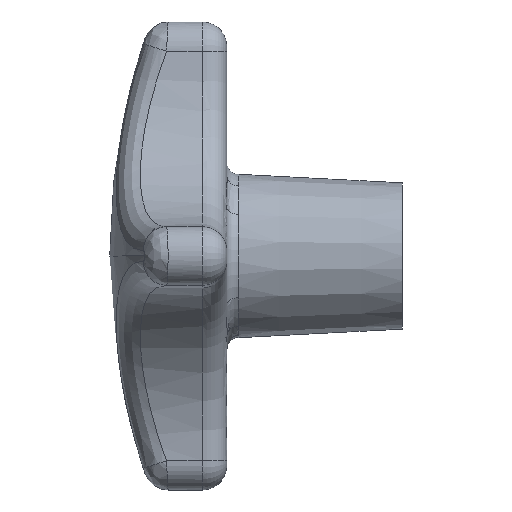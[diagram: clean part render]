
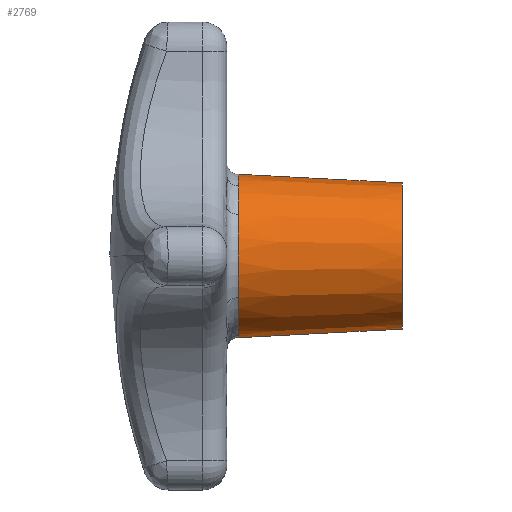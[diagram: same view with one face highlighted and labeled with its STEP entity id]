
A CAD part, left-side view. The second image highlights one B-rep face of the part: STEP entity #2769.
In plain terms, the highlighted conical face has half-angle 3 degrees and reference radius 12.5 mm.
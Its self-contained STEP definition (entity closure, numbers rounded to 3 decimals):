
#10 = CARTESIAN_POINT ( 'NONE',  ( -9.463, -1.933, 10.294 ) ) ;
#22 = ORIENTED_EDGE ( 'NONE', *, *, #1227, .T. ) ;
#44 = CARTESIAN_POINT ( 'NONE',  ( -9.482, -1.933, -10.277 ) ) ;
#55 = ORIENTED_EDGE ( 'NONE', *, *, #1430, .T. ) ;
#88 = CARTESIAN_POINT ( 'NONE',  ( 0., -30., 0. ) ) ;
#106 = AXIS2_PLACEMENT_3D ( 'NONE', #1453, #2883, #1691 ) ;
#218 = CARTESIAN_POINT ( 'NONE',  ( -8.127, -1.962, 11.377 ) ) ;
#231 = CARTESIAN_POINT ( 'NONE',  ( 0., -1.974, 13.969 ) ) ;
#241 = CARTESIAN_POINT ( 'NONE',  ( -10.277, -1.933, 9.482 ) ) ;
#273 = AXIS2_PLACEMENT_3D ( 'NONE', #88, #539, #776 ) ;
#380 = ORIENTED_EDGE ( 'NONE', *, *, #1632, .T. ) ;
#424 = LINE ( 'NONE', #439, #2817 ) ;
#428 = CARTESIAN_POINT ( 'NONE',  ( 0., -30., 12.5 ) ) ;
#434 = CARTESIAN_POINT ( 'NONE',  ( 0., -1.974, 0. ) ) ;
#439 = CARTESIAN_POINT ( 'NONE',  ( 0., -30., 12.5 ) ) ;
#468 = CARTESIAN_POINT ( 'NONE',  ( -11.375, -1.961, 8.13 ) ) ;
#504 = CARTESIAN_POINT ( 'NONE',  ( -7.152, -1.974, -11.999 ) ) ;
#523 = ORIENTED_EDGE ( 'NONE', *, *, #1512, .T. ) ;
#528 = DIRECTION ( 'NONE',  ( 0., 0.999, -0.052 ) ) ;
#539 = DIRECTION ( 'NONE',  ( 0., 1., 0. ) ) ;
#653 = VERTEX_POINT ( 'NONE', #504 ) ;
#676 = DIRECTION ( 'NONE',  ( 0., -1., 0. ) ) ;
#693 = CARTESIAN_POINT ( 'NONE',  ( -11.701, -1.974, 7.651 ) ) ;
#739 = VECTOR ( 'NONE', #528, 1000. ) ;
#776 = DIRECTION ( 'NONE',  ( 0., 0., 1. ) ) ;
#788 = CARTESIAN_POINT ( 'NONE',  ( -7.152, -1.974, -11.999 ) ) ;
#811 = AXIS2_PLACEMENT_3D ( 'NONE', #948, #1644, #1437 ) ;
#866 = CARTESIAN_POINT ( 'NONE',  ( 0., -1.974, -13.969 ) ) ;
#899 = DIRECTION ( 'NONE',  ( 0., 0., -1. ) ) ;
#910 = VERTEX_POINT ( 'NONE', #428 ) ;
#948 = CARTESIAN_POINT ( 'NONE',  ( 0., -1.974, 0. ) ) ;
#958 = CARTESIAN_POINT ( 'NONE',  ( -10.673, -1.941, -9.033 ) ) ;
#1017 = ORIENTED_EDGE ( 'NONE', *, *, #2132, .T. ) ;
#1042 = VERTEX_POINT ( 'NONE', #231 ) ;
#1051 = ORIENTED_EDGE ( 'NONE', *, *, #2233, .F. ) ;
#1121 = VERTEX_POINT ( 'NONE', #1942 ) ;
#1131 = FACE_OUTER_BOUND ( 'NONE', #2458, .T. ) ;
#1182 = B_SPLINE_CURVE_WITH_KNOTS ( 'NONE', 3,
 ( #2363, #2811, #2823, #958, #1410, #44, #1655, #1210, #2612, #788 ),
 .UNSPECIFIED., .F., .F.,
 ( 4, 2, 2, 2, 4 ),
 ( 0., 0.002, 0.003, 0.005, 0.007 ),
 .UNSPECIFIED. ) ;
#1193 = CARTESIAN_POINT ( 'NONE',  ( -7.152, -1.974, 11.999 ) ) ;
#1201 = ORIENTED_EDGE ( 'NONE', *, *, #2188, .T. ) ;
#1210 = CARTESIAN_POINT ( 'NONE',  ( -8.13, -1.961, -11.375 ) ) ;
#1227 = EDGE_CURVE ( 'NONE', #653, #1666, #1999, .T. ) ;
#1254 = CARTESIAN_POINT ( 'NONE',  ( 0., -30., 0. ) ) ;
#1260 = AXIS2_PLACEMENT_3D ( 'NONE', #1254, #2906, #2876 ) ;
#1287 = EDGE_CURVE ( 'NONE', #2603, #2081, #2059, .T. ) ;
#1347 = LINE ( 'NONE', #2852, #739 ) ;
#1373 = CIRCLE ( 'NONE', #273, 12.5 ) ;
#1410 = CARTESIAN_POINT ( 'NONE',  ( -10.294, -1.933, -9.463 ) ) ;
#1428 = CARTESIAN_POINT ( 'NONE',  ( 0., -30., -12.5 ) ) ;
#1430 = EDGE_CURVE ( 'NONE', #1854, #910, #1373, .T. ) ;
#1437 = DIRECTION ( 'NONE',  ( 0., 0., -1. ) ) ;
#1453 = CARTESIAN_POINT ( 'NONE',  ( 0., -1.974, 0. ) ) ;
#1512 = EDGE_CURVE ( 'NONE', #1042, #2603, #2304, .T. ) ;
#1583 = CARTESIAN_POINT ( 'NONE',  ( -7.651, -1.974, 11.702 ) ) ;
#1599 = CARTESIAN_POINT ( 'NONE',  ( -7.152, -1.974, 11.999 ) ) ;
#1632 = EDGE_CURVE ( 'NONE', #910, #1042, #424, .T. ) ;
#1644 = DIRECTION ( 'NONE',  ( 0., -1., 0. ) ) ;
#1655 = CARTESIAN_POINT ( 'NONE',  ( -9.046, -1.94, -10.662 ) ) ;
#1666 = VERTEX_POINT ( 'NONE', #866 ) ;
#1691 = DIRECTION ( 'NONE',  ( 0., 0., -1. ) ) ;
#1848 = CARTESIAN_POINT ( 'NONE',  ( -10.662, -1.94, 9.046 ) ) ;
#1854 = VERTEX_POINT ( 'NONE', #1428 ) ;
#1942 = CARTESIAN_POINT ( 'NONE',  ( -11.999, -1.974, -7.152 ) ) ;
#1999 = CIRCLE ( 'NONE', #2728, 13.969 ) ;
#2059 = B_SPLINE_CURVE_WITH_KNOTS ( 'NONE', 3,
 ( #1599, #1583, #218, #2309, #10, #241, #1848, #468, #693, #2752 ),
 .UNSPECIFIED., .F., .F.,
 ( 4, 2, 2, 2, 4 ),
 ( 0., 0.002, 0.003, 0.005, 0.007 ),
 .UNSPECIFIED. ) ;
#2078 = CONICAL_SURFACE ( 'NONE', #1260, 12.5, 0.052 ) ;
#2081 = VERTEX_POINT ( 'NONE', #2142 ) ;
#2132 = EDGE_CURVE ( 'NONE', #2081, #1121, #2609, .T. ) ;
#2142 = CARTESIAN_POINT ( 'NONE',  ( -11.999, -1.974, 7.152 ) ) ;
#2188 = EDGE_CURVE ( 'NONE', #1121, #653, #1182, .T. ) ;
#2193 = ORIENTED_EDGE ( 'NONE', *, *, #1287, .T. ) ;
#2233 = EDGE_CURVE ( 'NONE', #1854, #1666, #1347, .T. ) ;
#2259 = DIRECTION ( 'NONE',  ( 0., 0.999, 0.052 ) ) ;
#2304 = CIRCLE ( 'NONE', #106, 13.969 ) ;
#2309 = CARTESIAN_POINT ( 'NONE',  ( -9.033, -1.941, 10.673 ) ) ;
#2363 = CARTESIAN_POINT ( 'NONE',  ( -11.999, -1.974, -7.152 ) ) ;
#2458 = EDGE_LOOP ( 'NONE', ( #1051, #55, #380, #523, #2193, #1017, #1201, #22 ) ) ;
#2603 = VERTEX_POINT ( 'NONE', #1193 ) ;
#2609 = CIRCLE ( 'NONE', #811, 13.969 ) ;
#2612 = CARTESIAN_POINT ( 'NONE',  ( -7.651, -1.974, -11.701 ) ) ;
#2728 = AXIS2_PLACEMENT_3D ( 'NONE', #434, #676, #899 ) ;
#2752 = CARTESIAN_POINT ( 'NONE',  ( -11.999, -1.974, 7.152 ) ) ;
#2769 = ADVANCED_FACE ( 'NONE', ( #1131 ), #2078, .T. ) ;
#2811 = CARTESIAN_POINT ( 'NONE',  ( -11.702, -1.974, -7.651 ) ) ;
#2817 = VECTOR ( 'NONE', #2259, 1000. ) ;
#2823 = CARTESIAN_POINT ( 'NONE',  ( -11.377, -1.962, -8.127 ) ) ;
#2852 = CARTESIAN_POINT ( 'NONE',  ( 0., -30., -12.5 ) ) ;
#2876 = DIRECTION ( 'NONE',  ( 0., 0., 1. ) ) ;
#2883 = DIRECTION ( 'NONE',  ( 0., -1., 0. ) ) ;
#2906 = DIRECTION ( 'NONE',  ( 0., 1., 0. ) ) ;
